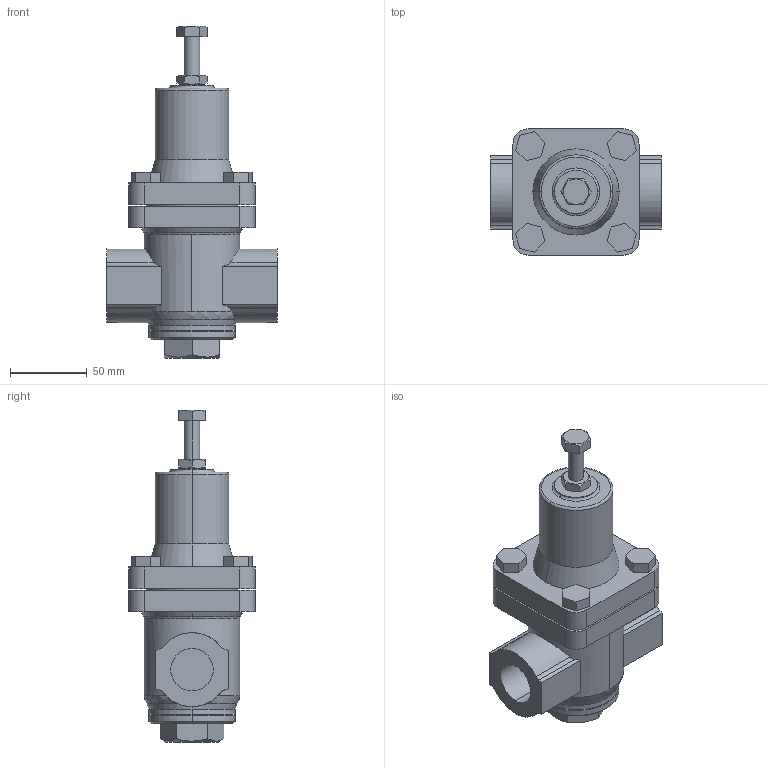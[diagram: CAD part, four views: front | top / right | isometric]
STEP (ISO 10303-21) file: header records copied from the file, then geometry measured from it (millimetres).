
FILE_DESCRIPTION( (''), '2;1');
FILE_NAME ('PC1276.4376.GD-45 25A_14021.stp','2025-12-10T13:02:19',(''),(''),'spGate 20.6.3 (****-****-****-****)','','');
FILE_SCHEMA (('AUTOMOTIVE_DESIGN'));
Length unit declared in the file: millimetre
Bounding box: 111 x 82 x 215.67 mm (x, y, z)
Volume: 603933 mm3; surface area: 73741.8 mm2
Topology: 1 solids, 1 shells, 150 faces, 375 edges, 245 vertices
Faces by surface type: plane 84, cylinder 42, bspline 24
Entity records: 8054 total; most frequent: CARTESIAN_POINT 1694, ORIENTED_EDGE 750, DIRECTION 618, COLOUR_RGB 526, PRESENTATION_STYLE_ASSIGNMENT 526, STYLED_ITEM 526, EDGE_CURVE 375, DRAUGHTING_PRE_DEFINED_CURVE_FONT 375
